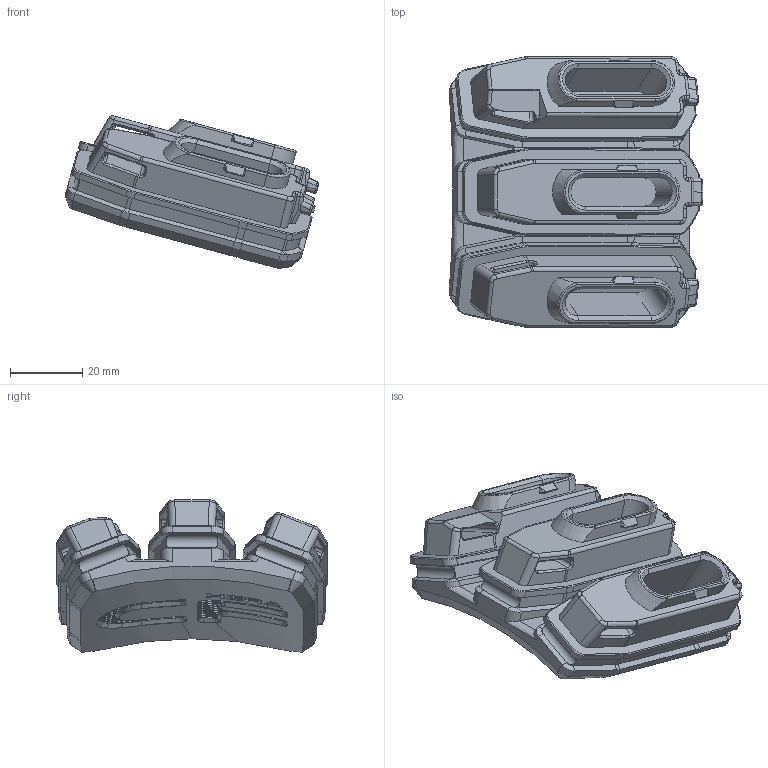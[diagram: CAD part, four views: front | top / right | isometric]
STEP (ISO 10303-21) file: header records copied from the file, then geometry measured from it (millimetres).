
FILE_DESCRIPTION(/* description */ ('STEP AP214'),/* implementation_level */ '2;1');
FILE_NAME(/* name */ 'Druck_Bodenplatte_3-fach.stp',/* time_stamp */ '2026-07-20T16:45:27+02:00',/* author */ ('Thomas'),/* organization */ (''),/* preprocessor_version */ 'ST-DEVELOPER v20.1',/* originating_system */ 'Autodesk Inventor 2026',/* authorisation */ '');
FILE_SCHEMA (('CONFIG_CONTROL_DESIGN'));
Length unit declared in the file: millimetre
Products named in the file (1): Bodenplatte_3-fach
Bounding box: 70.02 x 74.76 x 42.08 mm (x, y, z)
Volume: 75657 mm3; surface area: 24412.2 mm2
Topology: 1 solids, 1 shells, 2521 faces, 6476 edges, 4040 vertices
Faces by surface type: bspline 1187, plane 731, cylinder 467, cone 123, sphere 7, torus 6
Entity records: 116463 total; most frequent: CARTESIAN_POINT 59557, ORIENTED_EDGE 12928, DIRECTION 10342, EDGE_CURVE 6464, VERTEX_POINT 4040, AXIS2_PLACEMENT_3D 3911, EDGE_LOOP 2622, FACE_OUTER_BOUND 2521
